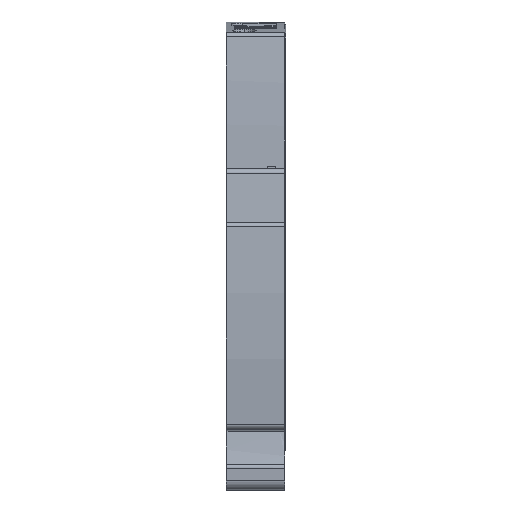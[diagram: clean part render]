
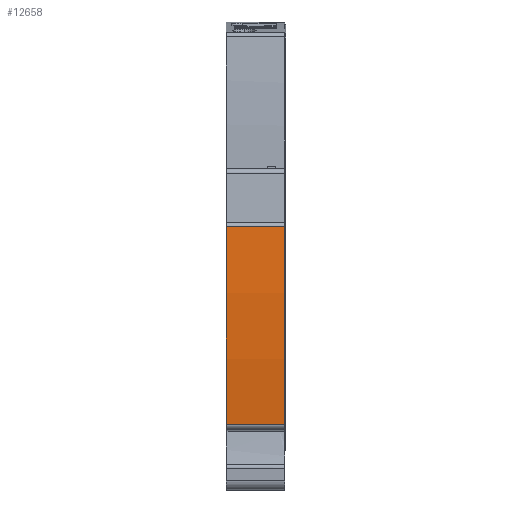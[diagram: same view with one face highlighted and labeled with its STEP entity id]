
A CAD part, front view. The second image highlights one B-rep face of the part: STEP entity #12658.
In plain terms, the highlighted cylindrical face has radius 202 mm (diameter 404 mm), a partial arc.
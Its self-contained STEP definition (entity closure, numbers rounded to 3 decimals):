
#1455=AXIS2_PLACEMENT_3D('Circle Axis2P3D',#1453,#1454,$) ;
#4448=AXIS2_PLACEMENT_3D('Circle Axis2P3D',#4446,#4447,$) ;
#12645=AXIS2_PLACEMENT_3D('Cylinder Axis2P3D',#12642,#12643,#12644) ;
#1450=CARTESIAN_POINT('Vertex',(11.95,0.609,53.828)) ;
#1453=CARTESIAN_POINT('Axis2P3D Location',(11.95,202.,38.15)) ;
#1457=CARTESIAN_POINT('Vertex',(11.95,1.531,13.327)) ;
#4443=CARTESIAN_POINT('Vertex',(0.,1.531,13.327)) ;
#4446=CARTESIAN_POINT('Axis2P3D Location',(0.,202.,38.15)) ;
#4450=CARTESIAN_POINT('Vertex',(0.,0.609,53.828)) ;
#12628=CARTESIAN_POINT('Line Origine',(6.,0.609,53.828)) ;
#12642=CARTESIAN_POINT('Axis2P3D Location',(6.,202.,38.15)) ;
#12647=CARTESIAN_POINT('Line Origine',(6.,1.531,13.327)) ;
#1454=DIRECTION('Axis2P3D Direction',(1.,0.,0.)) ;
#4447=DIRECTION('Axis2P3D Direction',(1.,0.,0.)) ;
#12629=DIRECTION('Vector Direction',(1.,0.,0.)) ;
#12643=DIRECTION('Axis2P3D Direction',(1.,0.,0.)) ;
#12644=DIRECTION('Axis2P3D XDirection',(0.,-0.997,0.082)) ;
#12648=DIRECTION('Vector Direction',(1.,0.,0.)) ;
#12630=VECTOR('Line Direction',#12629,1.) ;
#12649=VECTOR('Line Direction',#12648,1.) ;
#12653=ORIENTED_EDGE('',*,*,#12651,.T.) ;
#12654=ORIENTED_EDGE('',*,*,#1459,.F.) ;
#12655=ORIENTED_EDGE('',*,*,#12632,.F.) ;
#12656=ORIENTED_EDGE('',*,*,#4452,.T.) ;
#12658=ADVANCED_FACE('KLEMME',(#12657),#12646,.T.) ;
#1456=CIRCLE('generated circle',#1455,202.) ;
#4449=CIRCLE('generated circle',#4448,202.) ;
#12646=CYLINDRICAL_SURFACE('generated cylinder',#12645,202.) ;
#1459=EDGE_CURVE('',#1451,#1458,#1456,.T.) ;
#4452=EDGE_CURVE('',#4451,#4444,#4449,.T.) ;
#12632=EDGE_CURVE('',#4451,#1451,#12631,.T.) ;
#12651=EDGE_CURVE('',#4444,#1458,#12650,.T.) ;
#12652=EDGE_LOOP('',(#12653,#12654,#12655,#12656)) ;
#12657=FACE_OUTER_BOUND('',#12652,.T.) ;
#12631=LINE('Line',#12628,#12630) ;
#12650=LINE('Line',#12647,#12649) ;
#1451=VERTEX_POINT('',#1450) ;
#1458=VERTEX_POINT('',#1457) ;
#4444=VERTEX_POINT('',#4443) ;
#4451=VERTEX_POINT('',#4450) ;
